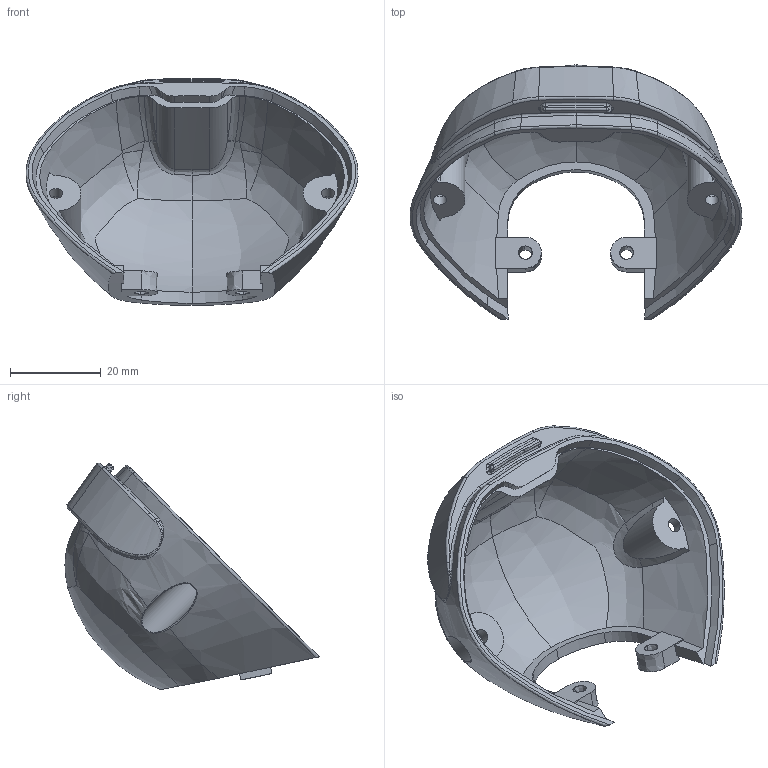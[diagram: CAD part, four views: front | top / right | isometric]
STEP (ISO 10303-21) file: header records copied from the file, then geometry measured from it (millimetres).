
FILE_DESCRIPTION(/* description */ (''),/* implementation_level */ '2;1');
FILE_NAME(/* name */ 'LAST_Grip 02.stp',/* time_stamp */ '2025-11-19T23:08:49+09:00',/* author */ (''),/* organization */ (''),/* preprocessor_version */ 'ST-DEVELOPER v11',/* originating_system */ 'SIEMENS PLM Software NX 7.5',/* authorisation */ '');
FILE_SCHEMA (('CONFIG_CONTROL_DESIGN'));
Length unit declared in the file: millimetre
Products named in the file (1): gyun8741yses
Bounding box: 73.23 x 56.05 x 50.06 mm (x, y, z)
Volume: 16803 mm3; surface area: 12953.9 mm2
Topology: 1 solids, 1 shells, 215 faces, 551 edges, 333 vertices
Faces by surface type: bspline 111, cylinder 28, plane 27, torus 18, extrusion 16, cone 15
Full cylindrical faces by diameter (mm): 3 x2
Entity records: 12444 total; most frequent: CARTESIAN_POINT 8082, ORIENTED_EDGE 1086, DIRECTION 603, EDGE_CURVE 543, VERTEX_POINT 333, B_SPLINE_CURVE_WITH_KNOTS 315, AXIS2_PLACEMENT_3D 253, EDGE_LOOP 226
